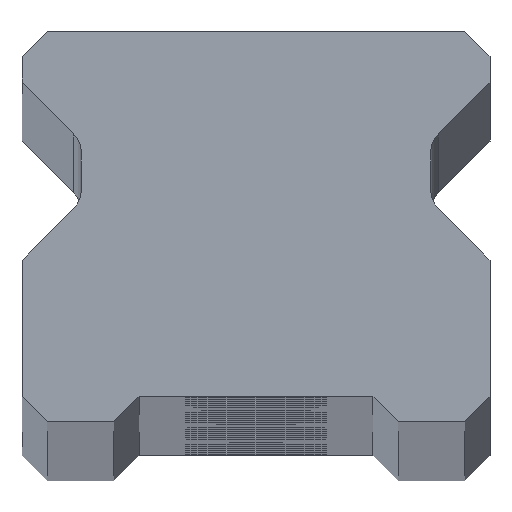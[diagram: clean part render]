
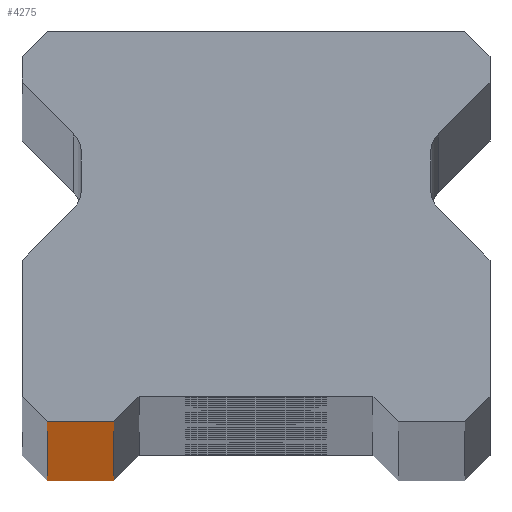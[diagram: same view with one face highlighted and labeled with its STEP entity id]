
A CAD part, top view. The second image highlights one B-rep face of the part: STEP entity #4275.
In plain terms, the highlighted planar face has unit normal (0, -1, 0).
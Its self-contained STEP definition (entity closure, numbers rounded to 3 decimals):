
#224 = DIRECTION ( 'NONE',  ( 0., 0., -1. ) ) ;
#240 = VERTEX_POINT ( 'NONE', #631 ) ;
#312 = PLANE ( 'NONE',  #1635 ) ;
#338 = DIRECTION ( 'NONE',  ( -1., 0., 0. ) ) ;
#585 = CARTESIAN_POINT ( 'NONE',  ( -10.25, 0., 830. ) ) ;
#603 = EDGE_CURVE ( 'NONE', #240, #2892, #2594, .T. ) ;
#631 = CARTESIAN_POINT ( 'NONE',  ( -10.25, 0., -830. ) ) ;
#912 = LINE ( 'NONE', #1907, #2558 ) ;
#1018 = CARTESIAN_POINT ( 'NONE',  ( -7., 0., 830. ) ) ;
#1081 = DIRECTION ( 'NONE',  ( 1., 0., 0. ) ) ;
#1173 = CARTESIAN_POINT ( 'NONE',  ( 11.5, 0., 830. ) ) ;
#1236 = VECTOR ( 'NONE', #3130, 1000. ) ;
#1421 = LINE ( 'NONE', #3115, #1236 ) ;
#1551 = CARTESIAN_POINT ( 'NONE',  ( -10.25, 0., 830. ) ) ;
#1635 = AXIS2_PLACEMENT_3D ( 'NONE', #1173, #3999, #338 ) ;
#1718 = ORIENTED_EDGE ( 'NONE', *, *, #3236, .F. ) ;
#1817 = DIRECTION ( 'NONE',  ( 1., 0., 0. ) ) ;
#1903 = VERTEX_POINT ( 'NONE', #1551 ) ;
#1907 = CARTESIAN_POINT ( 'NONE',  ( 11.5, 0., 830. ) ) ;
#2201 = ORIENTED_EDGE ( 'NONE', *, *, #603, .T. ) ;
#2318 = LINE ( 'NONE', #585, #5020 ) ;
#2548 = ORIENTED_EDGE ( 'NONE', *, *, #2854, .T. ) ;
#2558 = VECTOR ( 'NONE', #1081, 1000. ) ;
#2594 = LINE ( 'NONE', #5029, #4615 ) ;
#2854 = EDGE_CURVE ( 'NONE', #1903, #240, #2318, .T. ) ;
#2892 = VERTEX_POINT ( 'NONE', #3805 ) ;
#3115 = CARTESIAN_POINT ( 'NONE',  ( -7., 0., -830. ) ) ;
#3130 = DIRECTION ( 'NONE',  ( 0., 0., 1. ) ) ;
#3145 = ORIENTED_EDGE ( 'NONE', *, *, #3691, .T. ) ;
#3236 = EDGE_CURVE ( 'NONE', #1903, #4433, #912, .T. ) ;
#3333 = EDGE_LOOP ( 'NONE', ( #2201, #3145, #1718, #2548 ) ) ;
#3691 = EDGE_CURVE ( 'NONE', #2892, #4433, #1421, .T. ) ;
#3805 = CARTESIAN_POINT ( 'NONE',  ( -7., 0., -830. ) ) ;
#3999 = DIRECTION ( 'NONE',  ( 0., 1., 0. ) ) ;
#4275 = ADVANCED_FACE ( 'NONE', ( #4551 ), #312, .F. ) ;
#4433 = VERTEX_POINT ( 'NONE', #1018 ) ;
#4551 = FACE_OUTER_BOUND ( 'NONE', #3333, .T. ) ;
#4615 = VECTOR ( 'NONE', #1817, 1000. ) ;
#5020 = VECTOR ( 'NONE', #224, 1000. ) ;
#5029 = CARTESIAN_POINT ( 'NONE',  ( 11.5, 0., -830. ) ) ;
